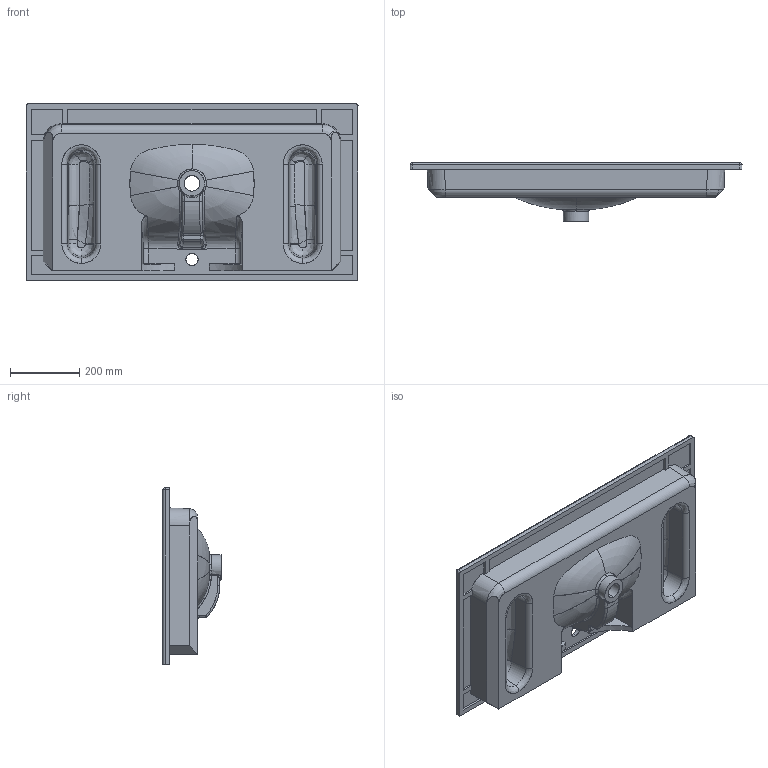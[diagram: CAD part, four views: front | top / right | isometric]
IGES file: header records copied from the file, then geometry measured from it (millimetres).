
Start section: SolidWorks IGES file using NURBS representation for surfaces
Global section: file name: C:\Users\User\Desktop\Soft\lavabi definitivi soft 51 m\soft 960 x 515\definitivo soft 960 x 515.IGS; native system: SolidWorks 2016; preprocessor: SolidWorks 2016; author: User; date: 200629.165633; units: millimetre
Bounding box: 960 x 168 x 510 mm (x, y, z)
Surface area: 1423579.9 mm2 (no closed solid volume)
Topology: 0 solids, 0 shells, 204 faces, 2908 edges, 2900 vertices
Faces by surface type: bspline 204
